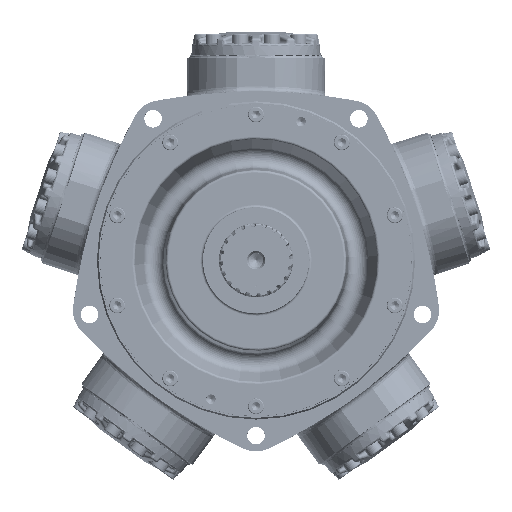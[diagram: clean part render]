
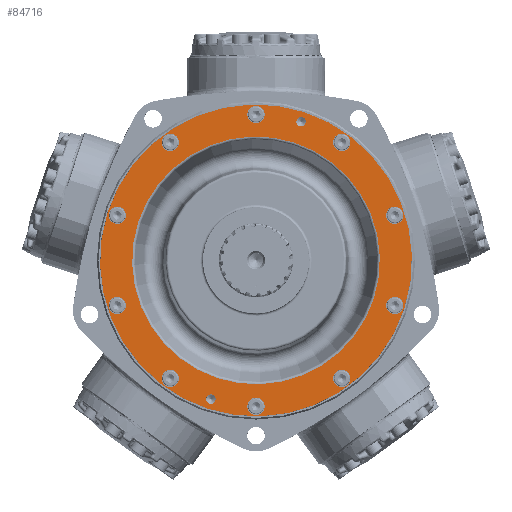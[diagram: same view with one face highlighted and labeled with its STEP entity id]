
A CAD part, top view. The second image highlights one B-rep face of the part: STEP entity #84716.
In plain terms, the highlighted planar face has unit normal (0, 0, 1).
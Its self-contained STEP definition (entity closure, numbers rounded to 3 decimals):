
#7103=FACE_BOUND('',#25624,.T.);
#7104=FACE_BOUND('',#25625,.T.);
#7105=FACE_BOUND('',#25626,.T.);
#7106=FACE_BOUND('',#25627,.T.);
#7107=FACE_BOUND('',#25628,.T.);
#7108=FACE_BOUND('',#25629,.T.);
#7109=FACE_BOUND('',#25630,.T.);
#7110=FACE_BOUND('',#25631,.T.);
#7111=FACE_BOUND('',#25632,.T.);
#7112=FACE_BOUND('',#25633,.T.);
#7113=FACE_BOUND('',#25634,.T.);
#7114=FACE_BOUND('',#25635,.T.);
#7115=FACE_BOUND('',#25636,.T.);
#16540=PLANE('',#90958);
#20322=FACE_OUTER_BOUND('',#25623,.T.);
#25623=EDGE_LOOP('',(#66761));
#25624=EDGE_LOOP('',(#66762));
#25625=EDGE_LOOP('',(#66763));
#25626=EDGE_LOOP('',(#66764));
#25627=EDGE_LOOP('',(#66765));
#25628=EDGE_LOOP('',(#66766));
#25629=EDGE_LOOP('',(#66767));
#25630=EDGE_LOOP('',(#66768));
#25631=EDGE_LOOP('',(#66769));
#25632=EDGE_LOOP('',(#66770));
#25633=EDGE_LOOP('',(#66771));
#25634=EDGE_LOOP('',(#66772));
#25635=EDGE_LOOP('',(#66773));
#25636=EDGE_LOOP('',(#66774));
#29833=CIRCLE('',#90927,186.628);
#29835=CIRCLE('',#90931,5.664);
#29836=CIRCLE('',#90933,5.664);
#29838=CIRCLE('',#90936,10.319);
#29839=CIRCLE('',#90938,10.319);
#29841=CIRCLE('',#90941,10.319);
#29842=CIRCLE('',#90943,10.319);
#29844=CIRCLE('',#90946,10.319);
#29845=CIRCLE('',#90948,10.319);
#29846=CIRCLE('',#90950,10.319);
#29847=CIRCLE('',#90952,10.319);
#29849=CIRCLE('',#90955,10.319);
#29850=CIRCLE('',#90957,10.319);
#29851=CIRCLE('',#90959,148.273);
#36378=VERTEX_POINT('',#188408);
#36380=VERTEX_POINT('',#188416);
#36381=VERTEX_POINT('',#188420);
#36383=VERTEX_POINT('',#188426);
#36384=VERTEX_POINT('',#188430);
#36386=VERTEX_POINT('',#188436);
#36387=VERTEX_POINT('',#188440);
#36389=VERTEX_POINT('',#188446);
#36390=VERTEX_POINT('',#188450);
#36391=VERTEX_POINT('',#188454);
#36392=VERTEX_POINT('',#188458);
#36394=VERTEX_POINT('',#188464);
#36395=VERTEX_POINT('',#188468);
#36396=VERTEX_POINT('',#188472);
#46886=EDGE_CURVE('',#36378,#36378,#29833,.T.);
#46890=EDGE_CURVE('',#36380,#36380,#29835,.T.);
#46892=EDGE_CURVE('',#36381,#36381,#29836,.T.);
#46896=EDGE_CURVE('',#36383,#36383,#29838,.T.);
#46898=EDGE_CURVE('',#36384,#36384,#29839,.T.);
#46901=EDGE_CURVE('',#36386,#36386,#29841,.T.);
#46903=EDGE_CURVE('',#36387,#36387,#29842,.T.);
#46906=EDGE_CURVE('',#36389,#36389,#29844,.T.);
#46908=EDGE_CURVE('',#36390,#36390,#29845,.T.);
#46910=EDGE_CURVE('',#36391,#36391,#29846,.T.);
#46912=EDGE_CURVE('',#36392,#36392,#29847,.T.);
#46915=EDGE_CURVE('',#36394,#36394,#29849,.T.);
#46917=EDGE_CURVE('',#36395,#36395,#29850,.T.);
#46918=EDGE_CURVE('',#36396,#36396,#29851,.T.);
#66761=ORIENTED_EDGE('',*,*,#46886,.T.);
#66762=ORIENTED_EDGE('',*,*,#46890,.T.);
#66763=ORIENTED_EDGE('',*,*,#46892,.T.);
#66764=ORIENTED_EDGE('',*,*,#46896,.T.);
#66765=ORIENTED_EDGE('',*,*,#46898,.T.);
#66766=ORIENTED_EDGE('',*,*,#46901,.T.);
#66767=ORIENTED_EDGE('',*,*,#46903,.T.);
#66768=ORIENTED_EDGE('',*,*,#46906,.T.);
#66769=ORIENTED_EDGE('',*,*,#46908,.T.);
#66770=ORIENTED_EDGE('',*,*,#46910,.T.);
#66771=ORIENTED_EDGE('',*,*,#46912,.T.);
#66772=ORIENTED_EDGE('',*,*,#46915,.T.);
#66773=ORIENTED_EDGE('',*,*,#46917,.T.);
#66774=ORIENTED_EDGE('',*,*,#46918,.F.);
#84716=ADVANCED_FACE('',(#20322,#7103,#7104,#7105,#7106,#7107,#7108,#7109,
#7110,#7111,#7112,#7113,#7114,#7115),#16540,.T.);
#90927=AXIS2_PLACEMENT_3D('',#188409,#104571,#104572);
#90931=AXIS2_PLACEMENT_3D('',#188417,#104581,#104582);
#90933=AXIS2_PLACEMENT_3D('',#188421,#104586,#104587);
#90936=AXIS2_PLACEMENT_3D('',#188428,#104594,#104595);
#90938=AXIS2_PLACEMENT_3D('',#188432,#104599,#104600);
#90941=AXIS2_PLACEMENT_3D('',#188438,#104606,#104607);
#90943=AXIS2_PLACEMENT_3D('',#188442,#104611,#104612);
#90946=AXIS2_PLACEMENT_3D('',#188448,#104618,#104619);
#90948=AXIS2_PLACEMENT_3D('',#188452,#104623,#104624);
#90950=AXIS2_PLACEMENT_3D('',#188456,#104628,#104629);
#90952=AXIS2_PLACEMENT_3D('',#188460,#104633,#104634);
#90955=AXIS2_PLACEMENT_3D('',#188466,#104640,#104641);
#90957=AXIS2_PLACEMENT_3D('',#188470,#104645,#104646);
#90958=AXIS2_PLACEMENT_3D('',#188471,#104647,#104648);
#90959=AXIS2_PLACEMENT_3D('',#188473,#104649,#104650);
#104571=DIRECTION('center_axis',(0.,0.,
1.));
#104572=DIRECTION('ref_axis',(0.309,0.951,0.));
#104581=DIRECTION('center_axis',(0.,0.,
-1.));
#104582=DIRECTION('ref_axis',(0.951,-0.309,0.));
#104586=DIRECTION('center_axis',(0.,0.,
-1.));
#104587=DIRECTION('ref_axis',(0.951,-0.309,0.));
#104594=DIRECTION('center_axis',(0.,0.,
-1.));
#104595=DIRECTION('ref_axis',(-0.588,0.809,0.));
#104599=DIRECTION('center_axis',(0.,0.,
-1.));
#104600=DIRECTION('ref_axis',(0.,1.,0.));
#104606=DIRECTION('center_axis',(0.,0.,
-1.));
#104607=DIRECTION('ref_axis',(0.588,0.809,0.));
#104611=DIRECTION('center_axis',(0.,0.,
-1.));
#104612=DIRECTION('ref_axis',(0.951,0.309,0.));
#104618=DIRECTION('center_axis',(0.,0.,
-1.));
#104619=DIRECTION('ref_axis',(0.951,-0.309,0.));
#104623=DIRECTION('center_axis',(0.,0.,
-1.));
#104624=DIRECTION('ref_axis',(0.588,-0.809,0.));
#104628=DIRECTION('center_axis',(0.,0.,
-1.));
#104629=DIRECTION('ref_axis',(0.,-1.,0.));
#104633=DIRECTION('center_axis',(0.,0.,
-1.));
#104634=DIRECTION('ref_axis',(-0.588,-0.809,0.));
#104640=DIRECTION('center_axis',(0.,0.,
-1.));
#104641=DIRECTION('ref_axis',(-0.951,-0.309,0.));
#104645=DIRECTION('center_axis',(0.,0.,
-1.));
#104646=DIRECTION('ref_axis',(-0.951,0.309,0.));
#104647=DIRECTION('center_axis',(0.,0.,
1.));
#104648=DIRECTION('ref_axis',(0.951,-0.309,0.));
#104649=DIRECTION('center_axis',(0.,0.,
1.));
#104650=DIRECTION('ref_axis',(-0.309,-0.951,0.));
#188408=CARTESIAN_POINT('',(-57.671,-177.493,119.254));
#188409=CARTESIAN_POINT('Origin',(0.,0.,
119.254));
#188416=CARTESIAN_POINT('',(48.575,167.829,119.254));
#188417=CARTESIAN_POINT('Origin',(53.962,166.078,119.254));
#188420=CARTESIAN_POINT('',(-59.349,-164.328,119.254));
#188421=CARTESIAN_POINT('Origin',(-53.962,-166.078,119.254));
#188426=CARTESIAN_POINT('',(108.707,-149.623,119.254));
#188428=CARTESIAN_POINT('Origin',(102.642,-141.275,119.254));
#188430=CARTESIAN_POINT('',(0.,-184.944,119.254));
#188432=CARTESIAN_POINT('Origin',(0.,-174.625,119.254));
#188436=CARTESIAN_POINT('',(-108.707,-149.623,119.254));
#188438=CARTESIAN_POINT('Origin',(-102.642,-141.275,119.254));
#188440=CARTESIAN_POINT('',(-175.892,-57.151,119.254));
#188442=CARTESIAN_POINT('Origin',(-166.078,-53.962,119.254));
#188446=CARTESIAN_POINT('',(-175.892,57.151,119.254));
#188448=CARTESIAN_POINT('Origin',(-166.078,53.962,119.254));
#188450=CARTESIAN_POINT('',(-108.707,149.623,119.254));
#188452=CARTESIAN_POINT('Origin',(-102.642,141.275,119.254));
#188454=CARTESIAN_POINT('',(0.,184.944,119.254));
#188456=CARTESIAN_POINT('Origin',(0.,174.625,119.254));
#188458=CARTESIAN_POINT('',(108.707,149.623,119.254));
#188460=CARTESIAN_POINT('Origin',(102.642,141.275,119.254));
#188464=CARTESIAN_POINT('',(175.892,57.151,119.254));
#188466=CARTESIAN_POINT('Origin',(166.078,53.962,119.254));
#188468=CARTESIAN_POINT('',(175.892,-57.151,119.254));
#188470=CARTESIAN_POINT('Origin',(166.078,-53.962,119.254));
#188471=CARTESIAN_POINT('Origin',(52.49,161.549,119.254));
#188472=CARTESIAN_POINT('',(-141.016,45.819,119.254));
#188473=CARTESIAN_POINT('Origin',(0.,0.,
119.254));
